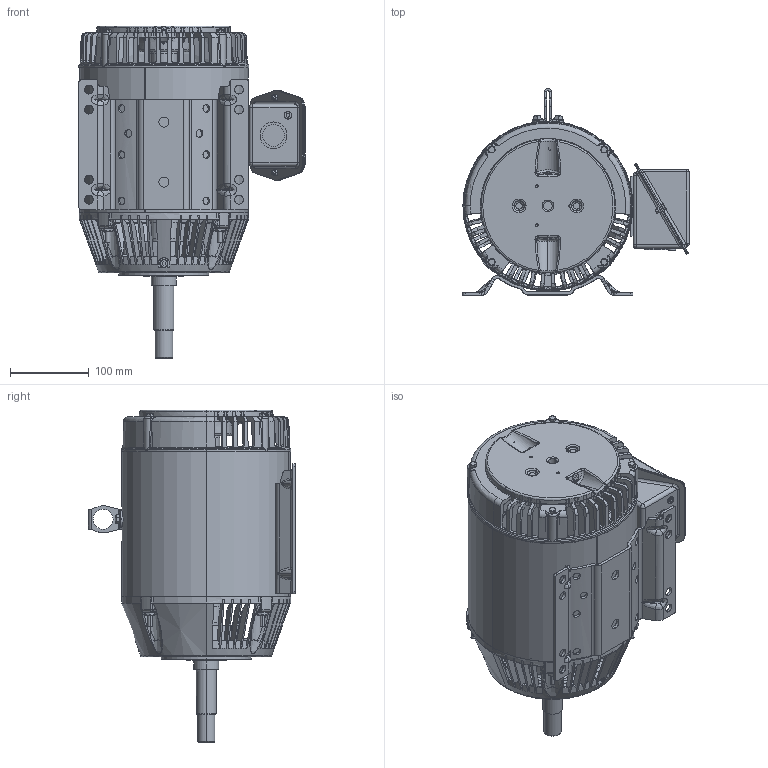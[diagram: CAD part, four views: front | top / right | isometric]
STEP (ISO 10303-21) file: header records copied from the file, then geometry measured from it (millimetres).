
FILE_DESCRIPTION (( 'STEP AP203' ), '1' );
FILE_NAME ('SS67309-725_Rev11.STEP', '2019-03-20T19:58:58', ( '' ), ( '' ), 'SwSTEP 2.0', 'SolidWorks 2015', '' );
FILE_SCHEMA (( 'CONFIG_CONTROL_DESIGN' ));
Length unit declared in the file: inch
Products named in the file (1): SS67309-725_Rev11
Bounding box: 287.18 x 263.03 x 421.46 mm (x, y, z)
Volume: 1615002.9 mm3; surface area: 843597.9 mm2
Topology: 28 solids, 28 shells, 3478 faces, 8960 edges, 5432 vertices
Faces by surface type: cylinder 807, plane 796, bspline 665, cone 511, torus 497, sphere 202
Entity records: 139121 total; most frequent: CARTESIAN_POINT 60773, ORIENTED_EDGE 17724, DIRECTION 15226, EDGE_CURVE 8862, AXIS2_PLACEMENT_3D 6451, VERTEX_POINT 5416, EDGE_LOOP 3652, CIRCLE 3637
